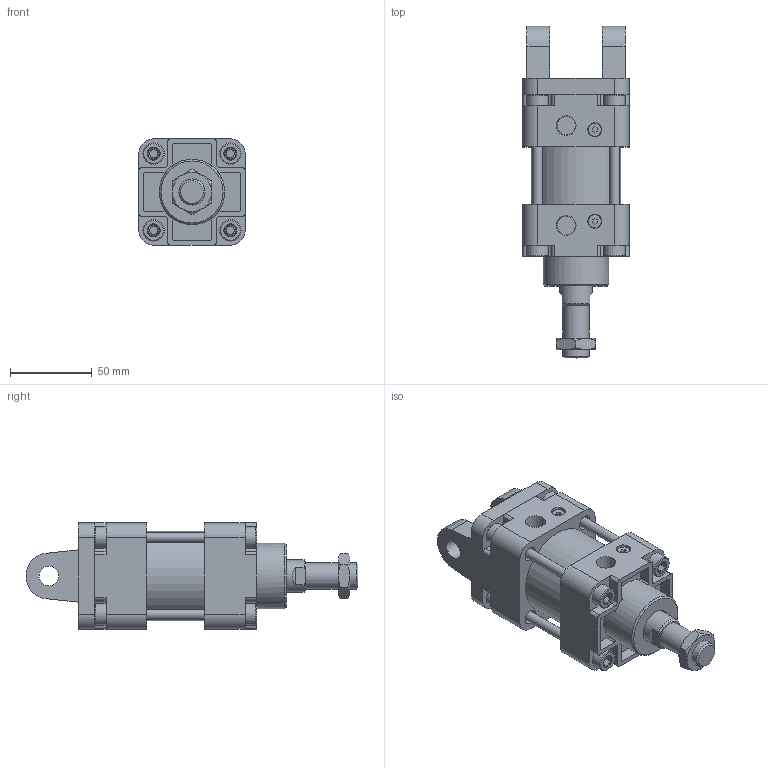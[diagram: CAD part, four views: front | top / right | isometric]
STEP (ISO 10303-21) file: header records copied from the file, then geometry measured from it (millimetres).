
FILE_DESCRIPTION(/* description */ ('Unknown'),/* implementation_level */ '2;1');
FILE_NAME(/* name */ 'WA50-0-CB',/* time_stamp */ '2026-07-17T16:52:03+08:00',/* author */ ('Unknown'),/* organization */ ('Unknown'),/* preprocessor_version */ 'ST-DEVELOPER v16.7',/* originating_system */ 'DEX',/* authorisation */ $);
FILE_SCHEMA (('CONFIG_CONTROL_DESIGN'));
Length unit declared in the file: millimetre
Products named in the file (8): WA50-0-CB; WA50_前; WA50_後; WA50_､ﾟｶbｬ｡_;m^XD}; M16-1.5P-8_螺; WA50_T碪墮姊濈祫; WA50_CB
Assembly tree (10 placements, depth 2):
  WA50-0-CB
    WA50_前
    (unnamed)
    WA50_後
    WA50_､ﾟｶbｬ｡_;m^XD}
    M16-1.5P-8_螺
    WA50_T碪墮姊濈祫  x4
    WA50_CB
Bounding box: 65 x 202.95 x 65 mm (x, y, z)
Volume: 416138.6 mm3; surface area: 107174.5 mm2
Topology: 10 solids, 10 shells, 394 faces, 953 edges, 642 vertices
Faces by surface type: plane 223, cylinder 134, cone 37
Full cylindrical faces by diameter (mm): 5 x8, 6 x4, 7 x4, 8 x2, 8.5 x2, 8.8 x8, 9 x8, 11 x4, 12 x2, 13 x8, 14.5 x1, 16 x1, 20 x2, 40 x1, 49.5 x1, 50 x3, 55 x1
Entity records: 10259 total; most frequent: CARTESIAN_POINT 1518, DIRECTION 1492, ORIENTED_EDGE 1310, EDGE_CURVE 655, AXIS2_PLACEMENT_3D 565, VERTEX_POINT 463, EDGE_LOOP 406, FACE_BOUND 406
